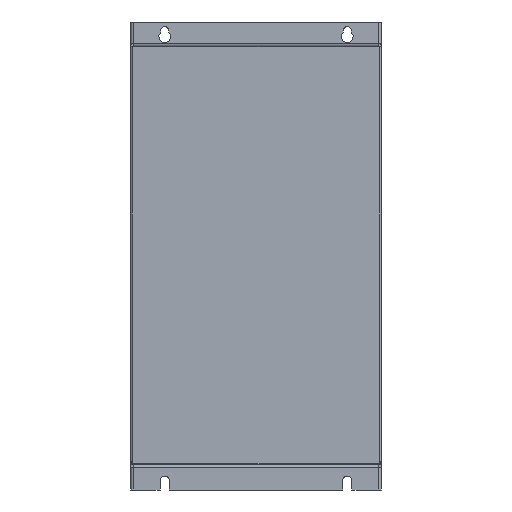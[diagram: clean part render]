
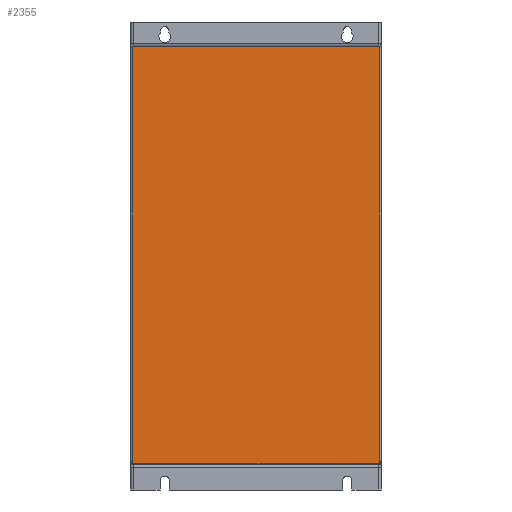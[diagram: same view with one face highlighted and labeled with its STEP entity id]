
A CAD part, left-side view. The second image highlights one B-rep face of the part: STEP entity #2355.
In plain terms, the highlighted planar face has unit normal (-1, 0, 0).
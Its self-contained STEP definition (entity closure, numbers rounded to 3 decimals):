
#2355=ADVANCED_FACE('',(#22007),#22009,.F.);
#22007=FACE_BOUND('',#22008,.T.);
#22008=EDGE_LOOP('',(#67213,#67214,#67215,#67216,#67217,#67218));
#22009=PLANE('',#22010);
#22010=AXIS2_PLACEMENT_3D('',#22011,#22012,#22013);
#22011=CARTESIAN_POINT('',(0.,0.,0.));
#22012=DIRECTION('',(1.,0.,0.));
#22013=DIRECTION('',(0.,1.,0.));
#67213=ORIENTED_EDGE('',*,*,#99942,.T.);
#67214=ORIENTED_EDGE('',*,*,#99941,.F.);
#67215=ORIENTED_EDGE('',*,*,#99943,.T.);
#67216=ORIENTED_EDGE('',*,*,#99944,.T.);
#67217=ORIENTED_EDGE('',*,*,#99945,.F.);
#67218=ORIENTED_EDGE('',*,*,#99946,.T.);
#99941=EDGE_CURVE('',#114371,#114366,#114373,.T.);
#99942=EDGE_CURVE('',#114374,#114366,#114375,.T.);
#99943=EDGE_CURVE('',#114371,#114376,#114377,.T.);
#99944=EDGE_CURVE('',#114376,#114378,#114379,.T.);
#99945=EDGE_CURVE('',#114380,#114378,#114381,.T.);
#99946=EDGE_CURVE('',#114380,#114374,#114382,.T.);
#114366=VERTEX_POINT('',#138380);
#114371=VERTEX_POINT('',#138389);
#114373=LINE('',#138393,#138394);
#114374=VERTEX_POINT('',#138396);
#114375=LINE('',#138397,#138398);
#114376=VERTEX_POINT('',#138400);
#114377=LINE('',#138401,#138402);
#114378=VERTEX_POINT('',#138404);
#114379=LINE('',#138405,#138406);
#114380=VERTEX_POINT('',#138408);
#114381=LINE('',#138409,#138410);
#114382=LINE('',#138412,#138413);
#138380=CARTESIAN_POINT('',(0.,108.1,-182.75));
#138389=CARTESIAN_POINT('',(0.,-108.1,-182.75));
#138393=CARTESIAN_POINT('',(0.,-108.1,-182.75));
#138394=VECTOR('',#138395,1.);
#138395=DIRECTION('',(0.,1.,0.));
#138396=CARTESIAN_POINT('',(0.,108.1,-180.85));
#138397=CARTESIAN_POINT('',(0.,108.1,-180.85));
#138398=VECTOR('',#138399,1.);
#138399=DIRECTION('',(0.,0.,-1.));
#138400=CARTESIAN_POINT('',(0.,-108.1,-180.85));
#138401=CARTESIAN_POINT('',(0.,-108.1,-182.75));
#138402=VECTOR('',#138403,1.);
#138403=DIRECTION('',(0.,0.,1.));
#138404=CARTESIAN_POINT('',(0.,-108.1,182.75));
#138405=CARTESIAN_POINT('',(0.,-108.1,-180.85));
#138406=VECTOR('',#138407,1.);
#138407=DIRECTION('',(0.,0.,1.));
#138408=CARTESIAN_POINT('',(0.,108.1,182.75));
#138409=CARTESIAN_POINT('',(0.,108.1,182.75));
#138410=VECTOR('',#138411,1.);
#138411=DIRECTION('',(0.,-1.,0.));
#138412=CARTESIAN_POINT('',(0.,108.1,182.75));
#138413=VECTOR('',#138414,1.);
#138414=DIRECTION('',(0.,0.,-1.));
